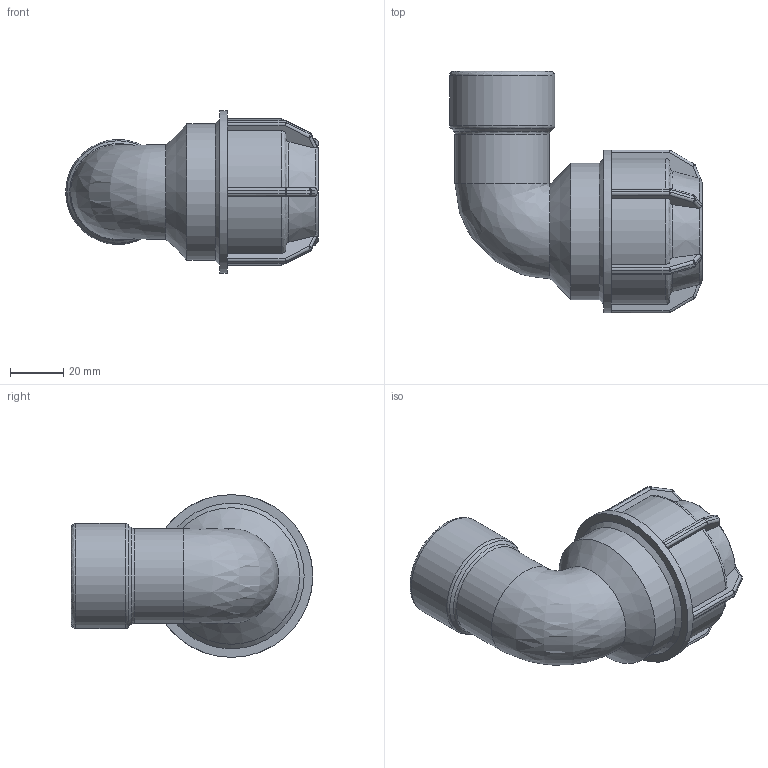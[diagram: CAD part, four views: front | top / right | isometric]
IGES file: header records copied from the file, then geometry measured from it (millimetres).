
Global section: file name: 141500032010.ipt; native system: Autodesk Inventor 2015; preprocessor: unknown; author: KIM; date: 20180409.131158; units: millimetre
Bounding box: 94.69 x 90.5 x 61 mm (x, y, z)
Volume: 107664 mm3; surface area: 33845.1 mm2
Topology: 1 solids, 1 shells, 214 faces, 517 edges, 303 vertices
Faces by surface type: plane 99, cylinder 58, revolution 24, sphere 24, cone 9
Full cylindrical faces by diameter (mm): 35.44 x1, 39.378 x1, 51.2 x1, 61 x1
